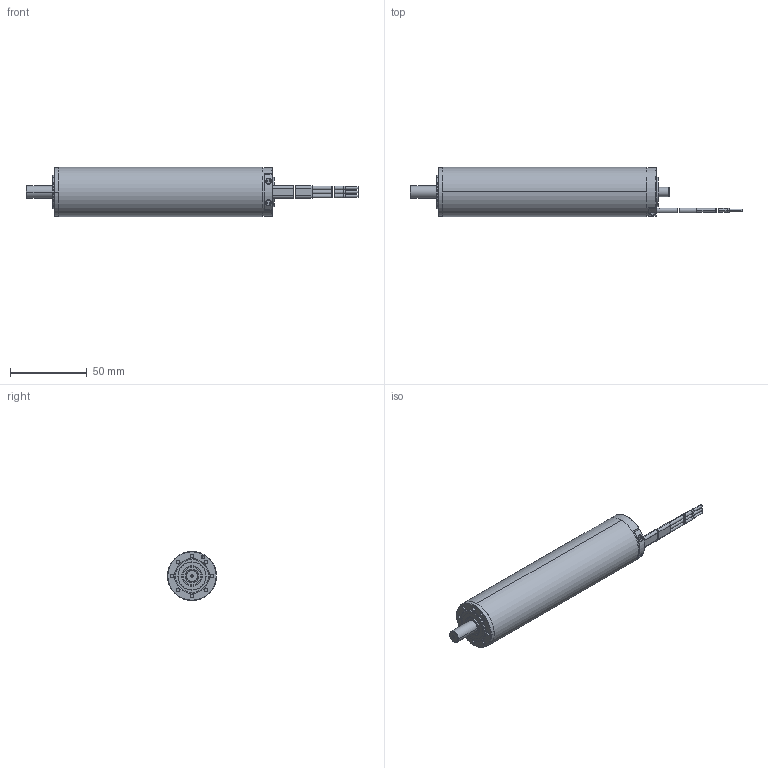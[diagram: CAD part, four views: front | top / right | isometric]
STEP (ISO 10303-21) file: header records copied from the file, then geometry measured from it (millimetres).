
FILE_DESCRIPTION((''),'2;1');
FILE_NAME('397800_EC-4POLE32_480W_B','2016-10-14T',('mmagpetk'),(''),'CREO PARAMETRIC BY PTC INC, 2016050','CREO PARAMETRIC BY PTC INC, 2016050','');
FILE_SCHEMA(('CONFIG_CONTROL_DESIGN'));
Length unit declared in the file: millimetre
Products named in the file (1): 397800_EC-4POLE32_480W_B
Bounding box: 216.6 x 32 x 32 mm (x, y, z)
Volume: 116145.9 mm3; surface area: 20551.8 mm2
Topology: 9 solids, 9 shells, 262 faces, 577 edges, 354 vertices
Faces by surface type: cylinder 115, plane 78, cone 35, bspline 24, torus 10
Entity records: 10637 total; most frequent: CARTESIAN_POINT 1850, DIRECTION 1306, ORIENTED_EDGE 1130, PRESENTATION_STYLE_ASSIGNMENT 721, STYLED_ITEM 574, CURVE_STYLE 565, EDGE_CURVE 565, AXIS2_PLACEMENT_3D 541
